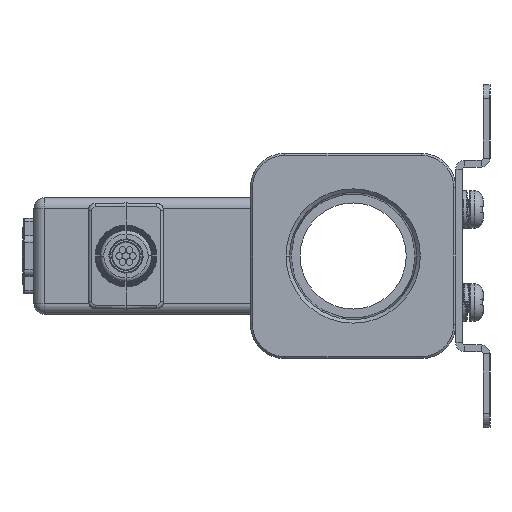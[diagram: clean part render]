
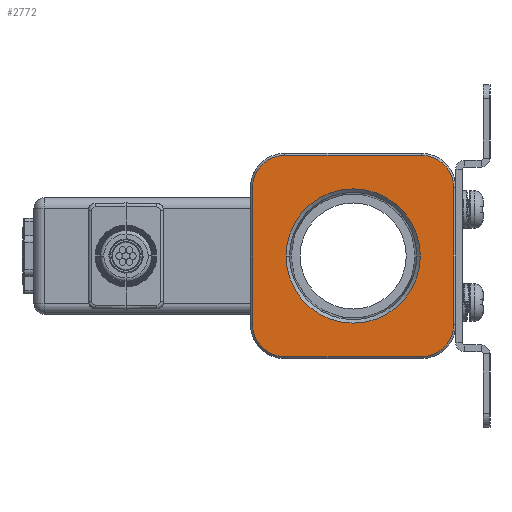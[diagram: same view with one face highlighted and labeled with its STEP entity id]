
A CAD part, left-side view. The second image highlights one B-rep face of the part: STEP entity #2772.
In plain terms, the highlighted planar face has unit normal (-1, 0, 0).
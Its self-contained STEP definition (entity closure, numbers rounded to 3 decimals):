
#2772=ADVANCED_FACE('',(#5733,#5734),#5735,.F.);
#5733=FACE_BOUND('',#10704,.T.);
#5734=FACE_OUTER_BOUND('',#10705,.T.);
#5735=PLANE('',#10706);
#10704=EDGE_LOOP('',(#21365,#21366));
#10705=EDGE_LOOP('',(#21367,#21368,#21369,#21370,#21371,#21372,#21373,#21374));
#10706=AXIS2_PLACEMENT_3D('',#21375,#21376,#21377);
#21365=ORIENTED_EDGE('',*,*,#27413,.T.);
#21366=ORIENTED_EDGE('',*,*,#27133,.T.);
#21367=ORIENTED_EDGE('',*,*,#26619,.T.);
#21368=ORIENTED_EDGE('',*,*,#27414,.T.);
#21369=ORIENTED_EDGE('',*,*,#27415,.T.);
#21370=ORIENTED_EDGE('',*,*,#27416,.T.);
#21371=ORIENTED_EDGE('',*,*,#27417,.T.);
#21372=ORIENTED_EDGE('',*,*,#27418,.T.);
#21373=ORIENTED_EDGE('',*,*,#27395,.T.);
#21374=ORIENTED_EDGE('',*,*,#27419,.T.);
#21375=CARTESIAN_POINT('',(-40.0,0.0,0.0));
#21376=DIRECTION('',(1.0,0.0,0.0));
#21377=DIRECTION('',(0.0,1.0,0.0));
#26619=EDGE_CURVE('',#33219,#33223,#33225,.T.);
#27133=EDGE_CURVE('',#33971,#33974,#33976,.T.);
#27395=EDGE_CURVE('',#34294,#34296,#34298,.T.);
#27413=EDGE_CURVE('',#33974,#33971,#34320,.T.);
#27414=EDGE_CURVE('',#33223,#34321,#34322,.T.);
#27415=EDGE_CURVE('',#34321,#34323,#34324,.T.);
#27416=EDGE_CURVE('',#34323,#34325,#34326,.T.);
#27417=EDGE_CURVE('',#34325,#34327,#34328,.T.);
#27418=EDGE_CURVE('',#34327,#34294,#34329,.T.);
#27419=EDGE_CURVE('',#34296,#33219,#34330,.T.);
#33219=VERTEX_POINT('',#46053);
#33223=VERTEX_POINT('',#46058);
#33225=CIRCLE('',#46061,4.7);
#33971=VERTEX_POINT('',#47121);
#33974=VERTEX_POINT('',#47125);
#33976=CIRCLE('',#47128,9.815);
#34294=VERTEX_POINT('',#47579);
#34296=VERTEX_POINT('',#47582);
#34298=CIRCLE('',#47585,4.7);
#34320=CIRCLE('',#47619,9.815);
#34321=VERTEX_POINT('',#47620);
#34322=LINE('',#47621,#47622);
#34323=VERTEX_POINT('',#47623);
#34324=CIRCLE('',#47624,4.7);
#34325=VERTEX_POINT('',#47625);
#34326=LINE('',#47626,#47627);
#34327=VERTEX_POINT('',#47628);
#34328=CIRCLE('',#47629,4.7);
#34329=LINE('',#47630,#47631);
#34330=LINE('',#47632,#47633);
#46053=CARTESIAN_POINT('',(-40.,-10.,-14.7));
#46058=CARTESIAN_POINT('',(-40.0,-14.7,-10.0));
#46061=AXIS2_PLACEMENT_3D('',#53006,#53007,#53008);
#47121=CARTESIAN_POINT('',(-40.0,9.815,0.0));
#47125=CARTESIAN_POINT('',(-40.0,-9.815,0.0));
#47128=AXIS2_PLACEMENT_3D('',#53580,#53581,#53582);
#47579=CARTESIAN_POINT('',(-40.,14.7,-10.));
#47582=CARTESIAN_POINT('',(-40.,10.,-14.7));
#47585=AXIS2_PLACEMENT_3D('',#53811,#53812,#53813);
#47619=AXIS2_PLACEMENT_3D('',#53826,#53827,#53828);
#47620=CARTESIAN_POINT('',(-40.,-14.7,10.));
#47621=CARTESIAN_POINT('',(-40.,-14.7,-10.));
#47622=VECTOR('',#53829,1.0);
#47623=CARTESIAN_POINT('',(-40.0,-10.0,14.7));
#47624=AXIS2_PLACEMENT_3D('',#53830,#53831,#53832);
#47625=CARTESIAN_POINT('',(-40.,10.,14.7));
#47626=CARTESIAN_POINT('',(-40.,-10.,14.7));
#47627=VECTOR('',#53833,1.0);
#47628=CARTESIAN_POINT('',(-40.0,14.7,10.0));
#47629=AXIS2_PLACEMENT_3D('',#53834,#53835,#53836);
#47630=CARTESIAN_POINT('',(-40.,14.7,10.));
#47631=VECTOR('',#53837,1.0);
#47632=CARTESIAN_POINT('',(-40.,10.,-14.7));
#47633=VECTOR('',#53838,1.0);
#53006=CARTESIAN_POINT('',(-40.0,-10.0,-10.0));
#53007=DIRECTION('',(-1.0,0.0,0.0));
#53008=DIRECTION('',(0.0,0.0,-1.0));
#53580=CARTESIAN_POINT('',(-40.0,0.0,0.0));
#53581=DIRECTION('',(1.0,0.0,0.0));
#53582=DIRECTION('',(0.0,1.0,0.0));
#53811=CARTESIAN_POINT('',(-40.0,10.0,-10.0));
#53812=DIRECTION('',(-1.0,0.0,0.0));
#53813=DIRECTION('',(0.0,1.0,0.0));
#53826=CARTESIAN_POINT('',(-40.0,0.0,0.0));
#53827=DIRECTION('',(1.0,0.0,0.0));
#53828=DIRECTION('',(0.0,-1.0,0.0));
#53829=DIRECTION('',(0.,0.,1.0));
#53830=CARTESIAN_POINT('',(-40.0,-10.0,10.0));
#53831=DIRECTION('',(-1.0,0.0,0.0));
#53832=DIRECTION('',(0.0,-1.0,0.0));
#53833=DIRECTION('',(0.,1.0,0.));
#53834=CARTESIAN_POINT('',(-40.0,10.0,10.0));
#53835=DIRECTION('',(-1.0,0.0,0.0));
#53836=DIRECTION('',(0.0,0.0,1.0));
#53837=DIRECTION('',(0.,0.,-1.0));
#53838=DIRECTION('',(0.,-1.0,0.));
